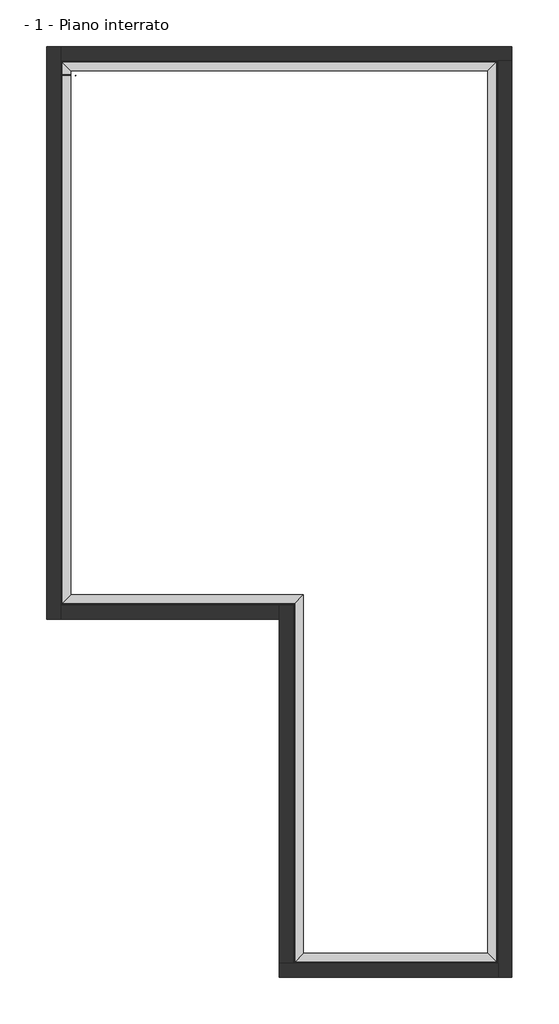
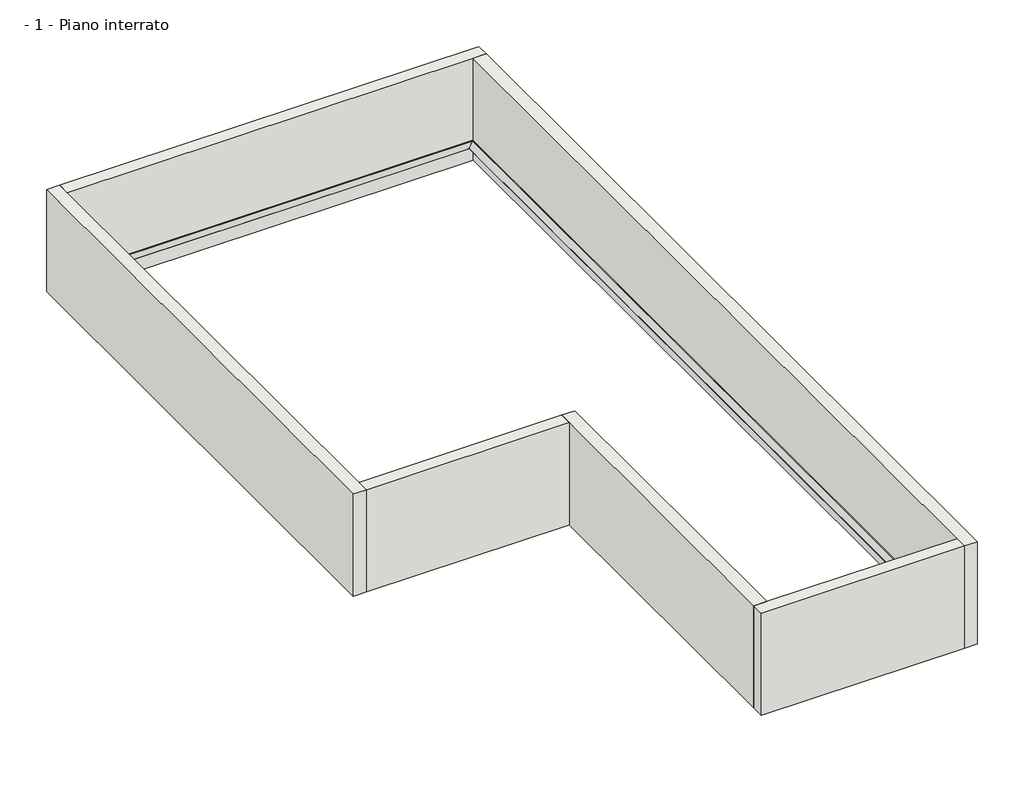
# One storey: 6 walls, 4 proxies.
"""IFC4 building model written with IfcOpenShell, lengths in millimetres."""

from ifc_helpers import new_model, si_unit, frame, origin, place, context, project, spatial, polyline, outline, extrude, faceted_brep, transform, mapped, element, save
from components import generic_models_3b7ed561

model = new_model("IFC4")

# Units and contexts
model_context = context("Model", 3, world=origin())
ifc_project = project(units=[si_unit("LENGTHUNIT", "METRE", prefix="MILLI")], contexts=[model_context])

# Site, building, storey
site = spatial("IfcSite", under=ifc_project)
building = spatial("IfcBuilding", under=site)
storey = spatial("IfcBuildingStorey", under=building, Name="- 1 - Piano interrato", Elevation=-2500.0)

# Proxies
placement = place(None, origin())
element("IfcBuildingElementProxy", 1, Name="PLASTIVO 250 VOLTECO horizontal strip", ObjectType="PLASTIVO 250 VOLTECO horizontal strip", at=placement, inside=storey, context=model_context, shape_type="SweptSolid", body=[
    extrude(outline(polyline([(-4510.8494157, -13645.4646364), (-4710.8494157, -13845.4646364), (-4710.8494157, -6145.4646364), (-4510.8494157, -5945.4646364), (-4510.8494157, -13645.4646364)])), frame((0.0, 0.0, -2002.0), z_axis=(0.0, 0.0, 1.0), x_axis=(1.0, 0.0, 0.0)), (0.0, 0.0, 1.0), 1.0),
    extrude(outline(polyline([(-550.8494157, -13645.4646364), (-350.8494157, -13845.4646364), (-4710.8494157, -13845.4646364), (-4510.8494157, -13645.4646364), (-550.8494157, -13645.4646364)])), frame((0.0, 0.0, -2002.0), z_axis=(0.0, 0.0, 1.0), x_axis=(1.0, 0.0, 0.0)), (0.0, 0.0, 1.0), 1.0),
    extrude(outline(polyline([(-550.8494157, 5314.5353636), (-350.8494157, 5514.5353636), (-350.8494157, -13845.4646364), (-550.8494157, -13645.4646364), (-550.8494157, 5314.5353636)])), frame((0.0, 0.0, -2002.0), z_axis=(0.0, 0.0, 1.0), x_axis=(1.0, 0.0, 0.0)), (0.0, 0.0, 1.0), 1.0),
    extrude(outline(polyline([(-9510.8494157, 5314.5353636), (-9710.8494157, 5514.5353636), (-350.8494157, 5514.5353636), (-550.8494157, 5314.5353636), (-9510.8494157, 5314.5353636)])), frame((0.0, 0.0, -2002.0), z_axis=(0.0, 0.0, 1.0), x_axis=(1.0, 0.0, 0.0)), (0.0, 0.0, 1.0), 1.0),
    extrude(outline(polyline([(-9510.8494157, -5945.4646364), (-9710.8494157, -6145.4646364), (-9710.8494157, 5514.5353636), (-9510.8494157, 5314.5353636), (-9510.8494157, -5945.4646364)])), frame((0.0, 0.0, -2002.0), z_axis=(0.0, 0.0, 1.0), x_axis=(1.0, 0.0, 0.0)), (0.0, 0.0, 1.0), 1.0),
    extrude(outline(polyline([(-9710.8494157, -6145.4646364), (-9510.8494157, -5945.4646364), (-4510.8494157, -5945.4646364), (-4710.8494157, -6145.4646364), (-9710.8494157, -6145.4646364)])), frame((0.0, 0.0, -2002.0), z_axis=(0.0, 0.0, 1.0), x_axis=(1.0, 0.0, 0.0)), (0.0, 0.0, 1.0), 1.0),
])
element("IfcBuildingElementProxy", 2, Name="AKTI-VO 201 all along the corners", ObjectType="AKTI-VO 201 all along the corners", at=placement, inside=storey, context=model_context, shape_type="SweptSolid", body=[
    extrude(outline(polyline([(-360.8494157, -13835.4646364), (-350.8494157, -13845.4646364), (-4710.8494157, -13845.4646364), (-4700.8494157, -13835.4646364), (-360.8494157, -13835.4646364)])), frame((0.0, 0.0, -2001.0), z_axis=(0.0, 0.0, 1.0), x_axis=(1.0, 0.0, 0.0)), (0.0, 0.0, 1.0), 10.0),
    extrude(outline(polyline([(-360.8494157, 5504.5353636), (-350.8494157, 5514.5353636), (-350.8494157, -13845.4646364), (-360.8494157, -13835.4646364), (-360.8494157, 5504.5353636)])), frame((0.0, 0.0, -2001.0), z_axis=(0.0, 0.0, 1.0), x_axis=(1.0, 0.0, 0.0)), (0.0, 0.0, 1.0), 10.0),
    extrude(outline(polyline([(-4700.8494157, -13835.4646364), (-4710.8494157, -13845.4646364), (-4710.8494157, -6145.4646364), (-4700.8494157, -6135.4646364), (-4700.8494157, -13835.4646364)])), frame((0.0, 0.0, -2001.0), z_axis=(0.0, 0.0, 1.0), x_axis=(1.0, 0.0, 0.0)), (0.0, 0.0, 1.0), 10.0),
    extrude(outline(polyline([(-9700.8494157, 5504.5353636), (-9710.8494157, 5514.5353636), (-350.8494157, 5514.5353636), (-360.8494157, 5504.5353636), (-9700.8494157, 5504.5353636)])), frame((0.0, 0.0, -2001.0), z_axis=(0.0, 0.0, 1.0), x_axis=(1.0, 0.0, 0.0)), (0.0, 0.0, 1.0), 10.0),
    extrude(outline(polyline([(-9700.8494157, -6135.4646364), (-9710.8494157, -6145.4646364), (-9710.8494157, 5514.5353636), (-9700.8494157, 5504.5353636), (-9700.8494157, -6135.4646364)])), frame((0.0, 0.0, -2001.0), z_axis=(0.0, 0.0, 1.0), x_axis=(1.0, 0.0, 0.0)), (0.0, 0.0, 1.0), 10.0),
    extrude(outline(polyline([(-9710.8494157, -6145.4646364), (-9700.8494157, -6135.4646364), (-4700.8494157, -6135.4646364), (-4710.8494157, -6145.4646364), (-9710.8494157, -6145.4646364)])), frame((0.0, 0.0, -2001.0), z_axis=(0.0, 0.0, 1.0), x_axis=(1.0, 0.0, 0.0)), (0.0, 0.0, 1.0), 10.0),
])
generic_models_shape = generic_models_3b7ed561(model_context)
element("IfcBuildingElementProxy", 3, Name="ENG-Connectors installed in horizontal structure sealed with AKTI-VO 201 : ENG-Connectors installed in horizontal structure sealed with AKTI-VO 201", ObjectType="ENG-Connectors installed in horizontal structure sealed with AKTI-VO 201 : ENG-Connectors installed in horizontal structure sealed with AKTI-VO 201", at=placement, inside=storey, context=model_context, shape_type="MappedRepresentation", body=[
    mapped(generic_models_shape, transform((-9407.8494157, 5208.5353636, -2001.0), x_axis=(1.0, 0.0, 0.0), y_axis=(0.0, 1.0, 0.0), z_axis=(0.0, 0.0, 1.0))),
])
element("IfcBuildingElementProxy", 4, Name="ENG-Connectors installed in vertical walls sealed with AKTI-VO 201 : ENG-Connectors installed in vertical walls sealed with AKTI-VO 201", ObjectType="ENG-Connectors installed in vertical walls sealed with AKTI-VO 201 : ENG-Connectors installed in vertical walls sealed with AKTI-VO 201", at=placement, inside=storey, context=model_context, shape_type="MappedRepresentation", body=[
    mapped(generic_models_shape, transform((-9710.8494157, 5220.5353636, -1872.40654), x_axis=(0.0, 1.0, 0.0), y_axis=(0.0, 0.0, 1.0), z_axis=(1.0, 0.0, 0.0))),
])

# Walls
element("IfcWall", 5, ObjectType="Brick wall", at=placement, inside=storey, context=model_context, shape_type="Brep", body=[
    faceted_brep([(-9730.8494157, -6465.4646364, -2500.0), (-9730.8494157, -6165.4646364, -2500.0), (-9730.8494157, 5534.5353636, -2500.0), (-9730.8494157, 5834.5353636, -2500.0), (-9730.8494157, 5834.5353636, 0.0), (-9730.8494157, 5534.5353636, 0.0), (-9730.8494157, -6165.4646364, 0.0), (-9730.8494157, -6465.4646364, 0.0), (-10030.8494157, -6465.4646364, -2500.0), (-10030.8494157, -6465.4646364, 0.0), (-10030.8494157, 5834.5353636, 0.0), (-10030.8494157, 5834.5353636, -2500.0)], [[[0, 1, 2, 3, 4, 5, 6, 7]], [[8, 9, 10, 11]], [[3, 2, 1, 0, 8, 11]], [[7, 6, 5, 4, 10, 9]], [[4, 3, 11, 10]], [[0, 7, 9, 8]]]),
])
element("IfcWall", 6, ObjectType="Brick wall", at=placement, inside=storey, context=model_context, shape_type="Brep", body=[
    faceted_brep([(-9730.8494157, 5534.5353636, 0.0), (-9730.8494157, 5534.5353636, -2001.0), (-9730.8494157, 5534.5353636, -2500.0), (-330.8494157, 5534.5353636, -2500.0), (-30.8494157, 5534.5353636, -2500.0), (-30.8494157, 5534.5353636, 0.0), (-330.8494157, 5534.5353636, 0.0), (-9720.8494157, 5534.5353636, 0.0), (-9730.8494157, 5834.5353636, -2500.0), (-9730.8494157, 5834.5353636, 0.0), (-30.8494157, 5834.5353636, 0.0), (-30.8494157, 5834.5353636, -2500.0)], [[[0, 1, 2, 3, 4, 5, 6, 7]], [[8, 9, 10, 11]], [[4, 3, 2, 8, 11]], [[0, 7, 6, 5, 10, 9]], [[5, 4, 11, 10]], [[0, 9, 8, 2, 1]]]),
])
element("IfcWall", 7, ObjectType="Brick wall", at=placement, inside=storey, context=model_context, shape_type="Brep", body=[
    faceted_brep([(-330.8494157, 5534.5353636, -2500.0), (-330.8494157, -13865.4646364, -2500.0), (-330.8494157, -14165.4646364, -2500.0), (-330.8494157, -14165.4646364, 0.0), (-330.8494157, -13865.4646364, 0.0), (-330.8494157, 5524.5353636, 0.0), (-330.8494157, 5534.5353636, 0.0), (-330.8494157, 5534.5353636, -2001.0), (-30.8494157, 5534.5353636, -2500.0), (-30.8494157, 5534.5353636, 0.0), (-30.8494157, -14165.4646364, 0.0), (-30.8494157, -14165.4646364, -2500.0)], [[[0, 1, 2, 3, 4, 5, 6, 7]], [[8, 9, 10, 11]], [[2, 1, 0, 8, 11]], [[6, 5, 4, 3, 10, 9]], [[0, 7, 6, 9, 8]], [[3, 2, 11, 10]]]),
])
element("IfcWall", 8, ObjectType="Brick wall", at=placement, inside=storey, context=model_context, shape_type="Brep", body=[
    faceted_brep([(-330.8494157, -13865.4646364, -2500.0), (-4730.8494157, -13865.4646364, -2500.0), (-5030.8494157, -13865.4646364, -2500.0), (-5030.8494157, -13865.4646364, 0.0), (-4730.8494157, -13865.4646364, 0.0), (-340.8494157, -13865.4646364, 0.0), (-330.8494157, -13865.4646364, 0.0), (-330.8494157, -13865.4646364, -2001.0), (-330.8494157, -14165.4646364, -2500.0), (-330.8494157, -14165.4646364, 0.0), (-5030.8494157, -14165.4646364, 0.0), (-5030.8494157, -14165.4646364, -2500.0)], [[[0, 1, 2, 3, 4, 5, 6, 7]], [[8, 9, 10, 11]], [[2, 1, 0, 8, 11]], [[6, 5, 4, 3, 10, 9]], [[0, 7, 6, 9, 8]], [[3, 2, 11, 10]]]),
])
element("IfcWall", 9, ObjectType="Brick wall", at=placement, inside=storey, context=model_context, shape_type="Brep", body=[
    faceted_brep([(-4730.8494157, -13865.4646364, -2500.0), (-4730.8494157, -6165.4646364, -2500.0), (-4730.8494157, -6165.4646364, 0.0), (-4730.8494157, -13855.4646364, 0.0), (-4730.8494157, -13865.4646364, 0.0), (-4730.8494157, -13865.4646364, -2001.0), (-5030.8494157, -6165.4646364, -2500.0), (-5030.8494157, -6465.4646364, -2500.0), (-5030.8494157, -13865.4646364, -2500.0), (-5030.8494157, -13865.4646364, 0.0), (-5030.8494157, -6465.4646364, 0.0), (-5030.8494157, -6165.4646364, 0.0)], [[[0, 1, 2, 3, 4, 5]], [[6, 7, 8, 9, 10, 11]], [[1, 0, 8, 7, 6]], [[4, 3, 2, 11, 10, 9]], [[0, 5, 4, 9, 8]], [[2, 1, 6, 11]]]),
])
element("IfcWall", 10, ObjectType="Brick wall", at=placement, inside=storey, context=model_context, shape_type="Brep", body=[
    faceted_brep([(-9730.8494157, -6465.4646364, -2500.0), (-5030.8494157, -6465.4646364, -2500.0), (-5030.8494157, -6465.4646364, 0.0), (-9730.8494157, -6465.4646364, 0.0), (-5030.8494157, -6165.4646364, -2500.0), (-9730.8494157, -6165.4646364, -2500.0), (-9730.8494157, -6165.4646364, -2001.0), (-9730.8494157, -6165.4646364, 0.0), (-9720.8494157, -6165.4646364, 0.0), (-5030.8494157, -6165.4646364, 0.0)], [[[0, 1, 2, 3]], [[4, 5, 6, 7, 8, 9]], [[1, 0, 5, 4]], [[3, 2, 9, 8, 7]], [[2, 1, 4, 9]], [[3, 7, 6, 5, 0]]]),
])

save(model, "model.ifc")
